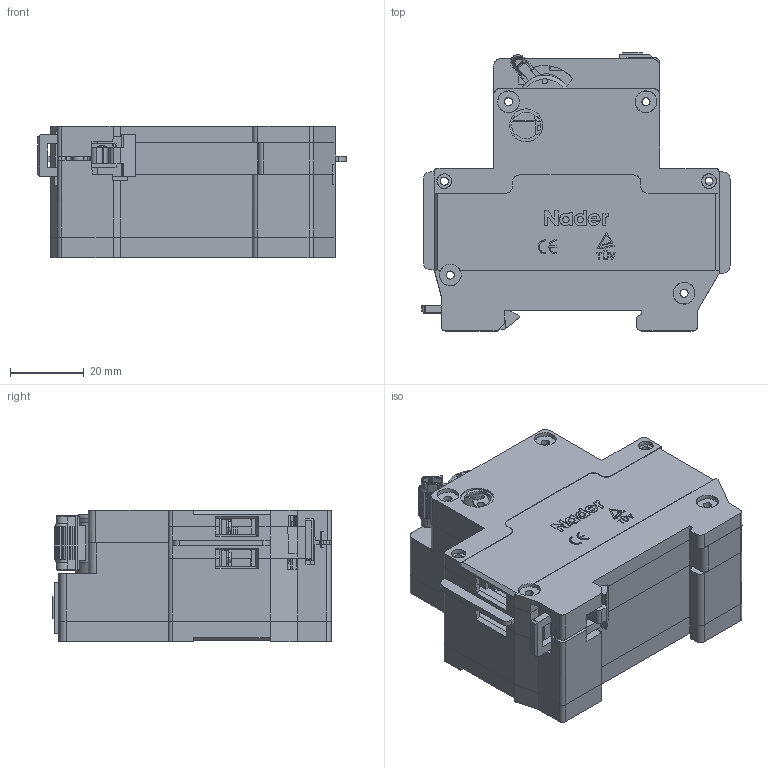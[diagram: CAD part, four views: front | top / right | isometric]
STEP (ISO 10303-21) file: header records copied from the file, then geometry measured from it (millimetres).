
FILE_DESCRIPTION (( 'STEP AP214' ), '1' );
FILE_NAME ('NDB1L-32 - UL.STEP', '2022-05-30T10:58:40', ( '' ), ( '' ), 'SwSTEP 2.0', 'SolidWorks 2018', '' );
FILE_SCHEMA (( 'AUTOMOTIVE_DESIGN' ));
Length unit declared in the file: millimetre
Products named in the file (12): 8LD.750.1160; 8LD.253.1202; 5LD.574.0029; 8LD.574.0024; 8LD.024.1251; 8LD.253.1245; 錨璃19; 8LD.271.1061; 8LD.907.0004; 8LD.315.106; NDB1L-32 - UL; 8LD.315.105
Assembly tree (16 placements, depth 3):
  NDB1L-32 - UL
    8LD.750.1160
    8LD.024.1251
    8LD.315.105
    8LD.315.106  x2
    8LD.253.1202
    8LD.271.1061
    錨璃19
    8LD.253.1245  x2
    5LD.574.0029  x4
      8LD.907.0004
      8LD.574.0024
Bounding box: 83.66 x 75.49 x 35.74 mm (x, y, z)
Volume: 58812.8 mm3; surface area: 88655.3 mm2
Topology: 18 solids, 18 shells, 4132 faces, 11471 edges, 7521 vertices
Faces by surface type: plane 2795, cylinder 845, cone 322, bspline 106, torus 62, sphere 2
Entity records: 115456 total; most frequent: CARTESIAN_POINT 37169, ORIENTED_EDGE 17098, DIRECTION 14103, EDGE_CURVE 8549, LINE 6237, VECTOR 6237, VERTEX_POINT 5626, AXIS2_PLACEMENT_3D 3933
